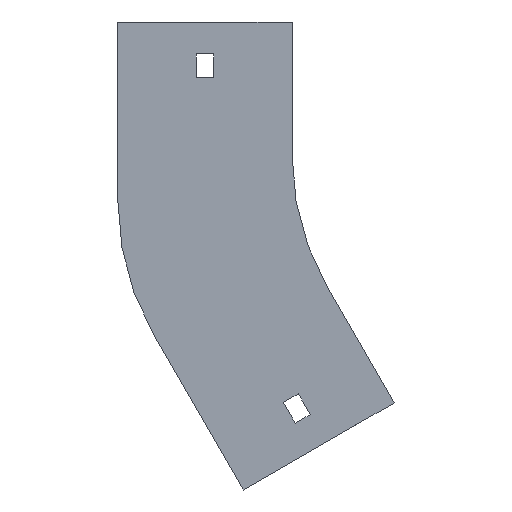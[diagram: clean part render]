
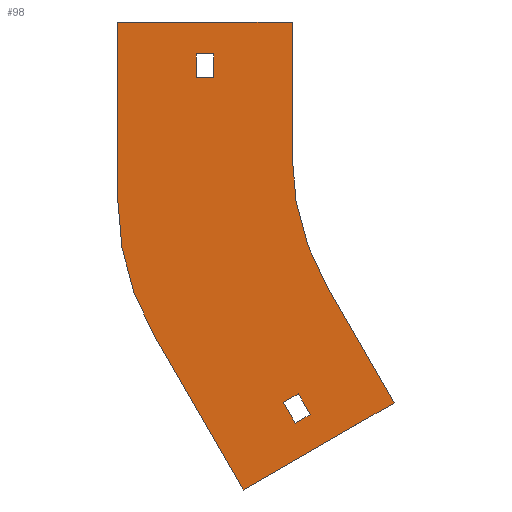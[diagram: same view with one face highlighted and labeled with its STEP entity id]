
A CAD part, front view. The second image highlights one B-rep face of the part: STEP entity #98.
In plain terms, the highlighted planar face has unit normal (0, -1, 0).
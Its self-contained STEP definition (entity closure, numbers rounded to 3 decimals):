
#1 = VERTEX_POINT ( 'NONE', #677 ) ;
#7 = DIRECTION ( 'NONE',  ( 0., -1., 0. ) ) ;
#9 = DIRECTION ( 'NONE',  ( -1., 0., 0. ) ) ;
#28 = DIRECTION ( 'NONE',  ( 0.866, 0., 0.5 ) ) ;
#35 = ORIENTED_EDGE ( 'NONE', *, *, #275, .F. ) ;
#72 = CARTESIAN_POINT ( 'NONE',  ( -97.65, 0., -89.865 ) ) ;
#82 = ORIENTED_EDGE ( 'NONE', *, *, #807, .F. ) ;
#98 = ADVANCED_FACE ( 'NONE', ( #347, #661, #1001 ), #542, .T. ) ;
#129 = ORIENTED_EDGE ( 'NONE', *, *, #1094, .F. ) ;
#138 = VECTOR ( 'NONE', #28, 1000. ) ;
#146 = DIRECTION ( 'NONE',  ( 0.5, 0., -0.866 ) ) ;
#152 = CARTESIAN_POINT ( 'NONE',  ( -61.603, 0., -93.301 ) ) ;
#153 = VECTOR ( 'NONE', #1010, 1000. ) ;
#156 = CARTESIAN_POINT ( 'NONE',  ( -100., 0., 0. ) ) ;
#170 = CARTESIAN_POINT ( 'NONE',  ( -152.103, 0., -67.551 ) ) ;
#177 = CARTESIAN_POINT ( 'NONE',  ( -118.327, 0., -126.051 ) ) ;
#195 = VERTEX_POINT ( 'NONE', #603 ) ;
#197 = EDGE_CURVE ( 'NONE', #195, #1328, #797, .T. ) ;
#211 = EDGE_CURVE ( 'NONE', #533, #1180, #277, .T. ) ;
#222 = CARTESIAN_POINT ( 'NONE',  ( -97.65, 0., -89.865 ) ) ;
#236 = VERTEX_POINT ( 'NONE', #762 ) ;
#251 = AXIS2_PLACEMENT_3D ( 'NONE', #1084, #1200, #656 ) ;
#259 = CARTESIAN_POINT ( 'NONE',  ( -165.5, 0., -17.551 ) ) ;
#260 = DIRECTION ( 'NONE',  ( 0., 1., 0. ) ) ;
#275 = EDGE_CURVE ( 'NONE', #1328, #323, #1028, .T. ) ;
#277 = LINE ( 'NONE', #597, #1397 ) ;
#278 = LINE ( 'NONE', #507, #1310 ) ;
#282 = DIRECTION ( 'NONE',  ( 0., 0., 1. ) ) ;
#287 = EDGE_CURVE ( 'NONE', #1, #195, #680, .T. ) ;
#315 = CARTESIAN_POINT ( 'NONE',  ( -100., 0., 50. ) ) ;
#317 = VERTEX_POINT ( 'NONE', #923 ) ;
#319 = CARTESIAN_POINT ( 'NONE',  ( -136., 0., 38. ) ) ;
#323 = VERTEX_POINT ( 'NONE', #1018 ) ;
#334 = ORIENTED_EDGE ( 'NONE', *, *, #772, .F. ) ;
#347 = FACE_BOUND ( 'NONE', #1396, .T. ) ;
#351 = LINE ( 'NONE', #777, #621 ) ;
#367 = CARTESIAN_POINT ( 'NONE',  ( -136., 0., 38. ) ) ;
#371 = LINE ( 'NONE', #987, #459 ) ;
#386 = DIRECTION ( 'NONE',  ( 1., 0., 0. ) ) ;
#407 = ORIENTED_EDGE ( 'NONE', *, *, #920, .T. ) ;
#459 = VECTOR ( 'NONE', #469, 1000. ) ;
#469 = DIRECTION ( 'NONE',  ( -0.866, 0., -0.5 ) ) ;
#483 = DIRECTION ( 'NONE',  ( -0.5, 0., 0.866 ) ) ;
#489 = CARTESIAN_POINT ( 'NONE',  ( -129.5, 0., 38. ) ) ;
#507 = CARTESIAN_POINT ( 'NONE',  ( -136., 0., 29. ) ) ;
#530 = CARTESIAN_POINT ( 'NONE',  ( -165.5, 0., 50. ) ) ;
#533 = VERTEX_POINT ( 'NONE', #315 ) ;
#540 = VERTEX_POINT ( 'NONE', #530 ) ;
#542 = PLANE ( 'NONE',  #713 ) ;
#548 = DIRECTION ( 'NONE',  ( 0., 0., -1. ) ) ;
#564 = LINE ( 'NONE', #999, #138 ) ;
#568 = LINE ( 'NONE', #1003, #734 ) ;
#579 = VECTOR ( 'NONE', #1206, 1000. ) ;
#585 = CARTESIAN_POINT ( 'NONE',  ( -93.15, 0., -97.659 ) ) ;
#595 = EDGE_CURVE ( 'NONE', #1180, #236, #827, .T. ) ;
#597 = CARTESIAN_POINT ( 'NONE',  ( -100., 0., 50. ) ) ;
#598 = LINE ( 'NONE', #1164, #619 ) ;
#603 = CARTESIAN_POINT ( 'NONE',  ( -118.327, 0., -126.051 ) ) ;
#612 = EDGE_CURVE ( 'NONE', #707, #1098, #568, .T. ) ;
#619 = VECTOR ( 'NONE', #929, 1000. ) ;
#621 = VECTOR ( 'NONE', #146, 1000. ) ;
#639 = LINE ( 'NONE', #319, #1313 ) ;
#649 = CARTESIAN_POINT ( 'NONE',  ( -103.279, 0., -93.115 ) ) ;
#656 = DIRECTION ( 'NONE',  ( 0., 0., -1. ) ) ;
#658 = VERTEX_POINT ( 'NONE', #649 ) ;
#661 = FACE_OUTER_BOUND ( 'NONE', #1370, .T. ) ;
#666 = ORIENTED_EDGE ( 'NONE', *, *, #211, .F. ) ;
#677 = CARTESIAN_POINT ( 'NONE',  ( -61.603, 0., -93.301 ) ) ;
#680 = LINE ( 'NONE', #152, #153 ) ;
#699 = EDGE_CURVE ( 'NONE', #317, #752, #564, .T. ) ;
#703 = CARTESIAN_POINT ( 'NONE',  ( -129.5, 0., 29. ) ) ;
#707 = VERTEX_POINT ( 'NONE', #703 ) ;
#713 = AXIS2_PLACEMENT_3D ( 'NONE', #766, #7, #548 ) ;
#718 = EDGE_CURVE ( 'NONE', #752, #953, #1042, .T. ) ;
#720 = ORIENTED_EDGE ( 'NONE', *, *, #612, .T. ) ;
#728 = VECTOR ( 'NONE', #1248, 1000. ) ;
#734 = VECTOR ( 'NONE', #9, 1000. ) ;
#737 = ORIENTED_EDGE ( 'NONE', *, *, #197, .F. ) ;
#746 = EDGE_CURVE ( 'NONE', #1098, #1071, #278, .T. ) ;
#749 = EDGE_LOOP ( 'NONE', ( #1246, #1327, #795, #1124 ) ) ;
#752 = VERTEX_POINT ( 'NONE', #585 ) ;
#762 = CARTESIAN_POINT ( 'NONE',  ( -86.603, 0., -50. ) ) ;
#766 = CARTESIAN_POINT ( 'NONE',  ( 0., 0., 0. ) ) ;
#770 = CARTESIAN_POINT ( 'NONE',  ( -136., 0., 29. ) ) ;
#772 = EDGE_CURVE ( 'NONE', #236, #1, #598, .T. ) ;
#777 = CARTESIAN_POINT ( 'NONE',  ( -103.279, 0., -93.115 ) ) ;
#785 = CARTESIAN_POINT ( 'NONE',  ( -65.5, 0., -17.551 ) ) ;
#795 = ORIENTED_EDGE ( 'NONE', *, *, #1130, .F. ) ;
#797 = LINE ( 'NONE', #177, #728 ) ;
#807 = EDGE_CURVE ( 'NONE', #540, #533, #1030, .T. ) ;
#809 = VECTOR ( 'NONE', #1326, 1000. ) ;
#810 = ORIENTED_EDGE ( 'NONE', *, *, #287, .F. ) ;
#827 = CIRCLE ( 'NONE', #251, 100. ) ;
#920 = EDGE_CURVE ( 'NONE', #1071, #1389, #639, .T. ) ;
#922 = VECTOR ( 'NONE', #483, 1000. ) ;
#923 = CARTESIAN_POINT ( 'NONE',  ( -98.779, 0., -100.909 ) ) ;
#929 = DIRECTION ( 'NONE',  ( 0.5, 0., -0.866 ) ) ;
#953 = VERTEX_POINT ( 'NONE', #222 ) ;
#973 = ORIENTED_EDGE ( 'NONE', *, *, #595, .F. ) ;
#983 = EDGE_CURVE ( 'NONE', #1389, #707, #1317, .T. ) ;
#987 = CARTESIAN_POINT ( 'NONE',  ( -103.279, 0., -93.115 ) ) ;
#997 = LINE ( 'NONE', #259, #809 ) ;
#999 = CARTESIAN_POINT ( 'NONE',  ( -98.779, 0., -100.909 ) ) ;
#1001 = FACE_BOUND ( 'NONE', #749, .T. ) ;
#1003 = CARTESIAN_POINT ( 'NONE',  ( -136., 0., 29. ) ) ;
#1010 = DIRECTION ( 'NONE',  ( -0.866, 0., -0.5 ) ) ;
#1018 = CARTESIAN_POINT ( 'NONE',  ( -165.5, 0., -17.551 ) ) ;
#1028 = CIRCLE ( 'NONE', #1233, 100. ) ;
#1030 = LINE ( 'NONE', #1358, #1402 ) ;
#1042 = LINE ( 'NONE', #72, #922 ) ;
#1061 = ORIENTED_EDGE ( 'NONE', *, *, #983, .T. ) ;
#1071 = VERTEX_POINT ( 'NONE', #367 ) ;
#1084 = CARTESIAN_POINT ( 'NONE',  ( 0., 0., 0. ) ) ;
#1085 = EDGE_CURVE ( 'NONE', #658, #317, #351, .T. ) ;
#1094 = EDGE_CURVE ( 'NONE', #323, #540, #997, .T. ) ;
#1098 = VERTEX_POINT ( 'NONE', #770 ) ;
#1124 = ORIENTED_EDGE ( 'NONE', *, *, #718, .F. ) ;
#1130 = EDGE_CURVE ( 'NONE', #953, #658, #371, .T. ) ;
#1133 = DIRECTION ( 'NONE',  ( 0., 0., -1. ) ) ;
#1164 = CARTESIAN_POINT ( 'NONE',  ( -86.603, 0., -50. ) ) ;
#1180 = VERTEX_POINT ( 'NONE', #156 ) ;
#1200 = DIRECTION ( 'NONE',  ( 0., -1., 0. ) ) ;
#1206 = DIRECTION ( 'NONE',  ( 0., 0., -1. ) ) ;
#1225 = DIRECTION ( 'NONE',  ( 0., 0., 1. ) ) ;
#1233 = AXIS2_PLACEMENT_3D ( 'NONE', #785, #260, #1225 ) ;
#1246 = ORIENTED_EDGE ( 'NONE', *, *, #699, .F. ) ;
#1248 = DIRECTION ( 'NONE',  ( -0.5, 0., 0.866 ) ) ;
#1272 = ORIENTED_EDGE ( 'NONE', *, *, #746, .T. ) ;
#1284 = DIRECTION ( 'NONE',  ( 1., 0., 0. ) ) ;
#1310 = VECTOR ( 'NONE', #282, 1000. ) ;
#1313 = VECTOR ( 'NONE', #1284, 1000. ) ;
#1317 = LINE ( 'NONE', #1324, #579 ) ;
#1324 = CARTESIAN_POINT ( 'NONE',  ( -129.5, 0., 29. ) ) ;
#1326 = DIRECTION ( 'NONE',  ( 0., 0., 1. ) ) ;
#1327 = ORIENTED_EDGE ( 'NONE', *, *, #1085, .F. ) ;
#1328 = VERTEX_POINT ( 'NONE', #170 ) ;
#1358 = CARTESIAN_POINT ( 'NONE',  ( -165.5, 0., 50. ) ) ;
#1370 = EDGE_LOOP ( 'NONE', ( #82, #129, #35, #737, #810, #334, #973, #666 ) ) ;
#1389 = VERTEX_POINT ( 'NONE', #489 ) ;
#1396 = EDGE_LOOP ( 'NONE', ( #1272, #407, #1061, #720 ) ) ;
#1397 = VECTOR ( 'NONE', #1133, 1000. ) ;
#1402 = VECTOR ( 'NONE', #386, 1000. ) ;
